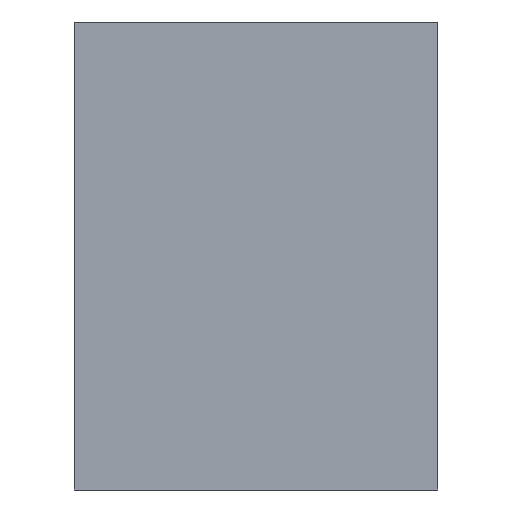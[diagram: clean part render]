
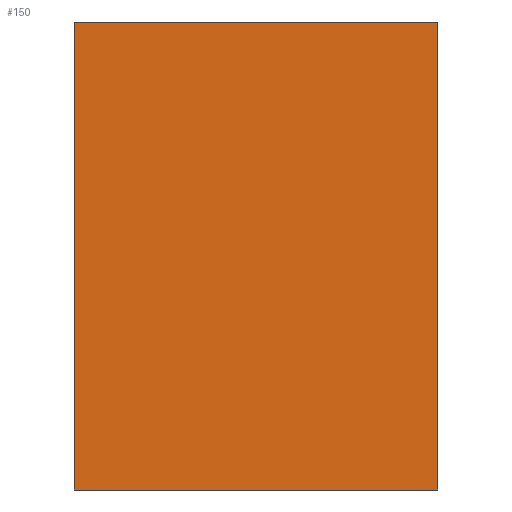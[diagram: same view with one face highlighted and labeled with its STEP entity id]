
A CAD part, front view. The second image highlights one B-rep face of the part: STEP entity #150.
In plain terms, the highlighted planar face has unit normal (0, -1, 0).
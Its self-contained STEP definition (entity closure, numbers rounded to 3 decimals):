
#107=PLANE('',#623);
#121=FACE_OUTER_BOUND('',#297,.T.);
#123=LINE('',#875,#135);
#124=LINE('',#878,#136);
#125=LINE('',#880,#137);
#126=LINE('',#882,#138);
#135=VECTOR('',#711,1.);
#136=VECTOR('',#712,1.);
#137=VECTOR('',#713,1.);
#138=VECTOR('',#714,1.);
#150=ADVANCED_FACE('',(#121),#107,.F.);
#297=EDGE_LOOP('',(#379,#380,#381,#382));
#379=ORIENTED_EDGE('',*,*,#531,.T.);
#380=ORIENTED_EDGE('',*,*,#532,.F.);
#381=ORIENTED_EDGE('',*,*,#533,.F.);
#382=ORIENTED_EDGE('',*,*,#534,.T.);
#479=VERTEX_POINT('',#876);
#480=VERTEX_POINT('',#877);
#481=VERTEX_POINT('',#879);
#482=VERTEX_POINT('',#881);
#531=EDGE_CURVE('',#479,#480,#123,.T.);
#532=EDGE_CURVE('',#481,#480,#124,.T.);
#533=EDGE_CURVE('',#482,#481,#125,.T.);
#534=EDGE_CURVE('',#482,#479,#126,.T.);
#623=AXIS2_PLACEMENT_3D('',#883,#715,#716);
#711=DIRECTION('',(0.,0.,1.));
#712=DIRECTION('',(1.,0.,0.));
#713=DIRECTION('',(0.,0.,1.));
#714=DIRECTION('',(1.,0.,0.));
#715=DIRECTION('',(0.,1.,0.));
#716=DIRECTION('',(0.,0.,1.));
#875=CARTESIAN_POINT('',(0.,-70.,-57.));
#876=CARTESIAN_POINT('',(0.,-70.,-57.));
#877=CARTESIAN_POINT('',(0.,-70.,59.));
#878=CARTESIAN_POINT('',(-90.,-70.,59.));
#879=CARTESIAN_POINT('',(-90.,-70.,59.));
#880=CARTESIAN_POINT('',(-90.,-70.,-57.));
#881=CARTESIAN_POINT('',(-90.,-70.,-57.));
#882=CARTESIAN_POINT('',(-90.,-70.,-57.));
#883=CARTESIAN_POINT('',(-90.,-70.,-57.));
